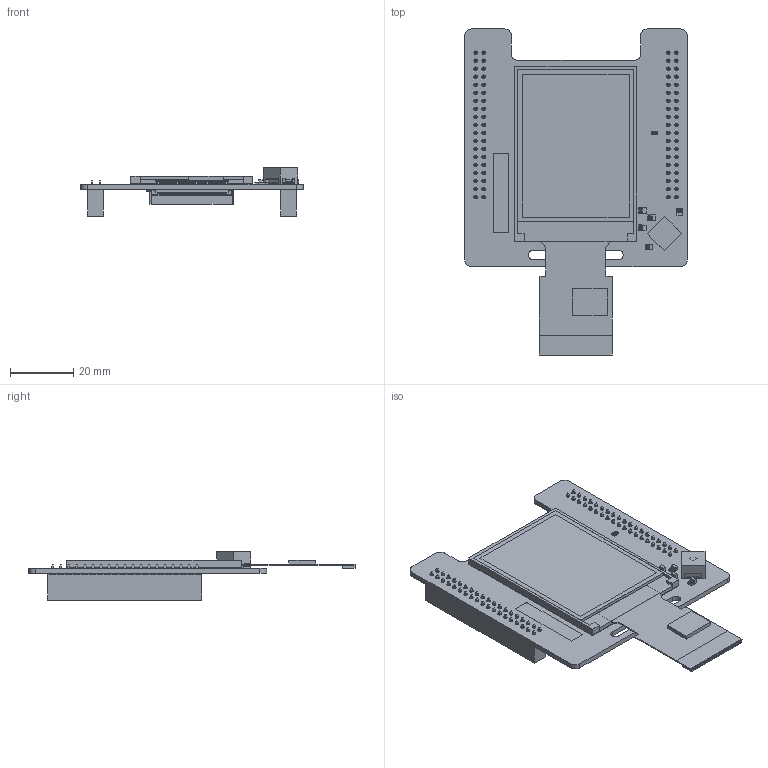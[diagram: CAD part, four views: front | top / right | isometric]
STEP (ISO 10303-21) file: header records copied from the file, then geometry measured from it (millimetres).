
FILE_DESCRIPTION(('Open CASCADE Model'),'2;1');
FILE_NAME('Open CASCADE Shape Model','2021-10-09T15:45:29',('Author'),( 'Open CASCADE'),'Open CASCADE STEP processor 6.8','Open CASCADE 6.8' ,'Unknown');
FILE_SCHEMA(('AUTOMOTIVE_DESIGN { 1 0 10303 214 1 1 1 1 }'));
Length unit declared in the file: millimetre
Products named in the file (92): PCB; Board; Open CASCADE STEP translator 6.8 1.1.1; CN2; SSW-119-01-G-D; _T1SSW-119-01-G-D; _P2SSW-119-01-G-D; 6709232576; Extruded; R12; R0603; 6709237056; R11; R1206; 6709235536; R10; R9; R8; R7; 6709236816; C7; C0603; 6709237936; R6; R5; R4; R3; R2; R1; C6; 6709238256; C5; C4; C3; C2; C1; B1; SWI_XIEJIA_MT-008A_6P; 6701873088; CN3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
Assembly tree (192 placements, depth 4):
  PCB
    Board
      Open CASCADE STEP translator 6.8 1.1.1
    CN2
      SSW-119-01-G-D
        _T1SSW-119-01-G-D
        _P2SSW-119-01-G-D
      6709232576
        Extruded
    R12
      R0603
      6709237056
        Extruded
    R11
      R1206
      6709235536
        Extruded
    R10
      R1206
      6709235536
        Extruded
    R9
      R1206
      6709235536
        Extruded
    R8
      R1206
      6709235536
        Extruded
    R7
      R0603
      6709236816
        Extruded
    C7
      C0603
      6709237936
        Extruded
    R6
      R0603
      6709237056
        Extruded
    R5
      R0603
      6709236816
        Extruded
    R4
      R0603
      6709236816
        Extruded
    R3
      R0603
      6709236816
        Extruded
    R2
      R0603
      6709236816
        Extruded
    R1
      R0603
      6709237056
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Bounding box: 70.36 x 103.17 x 15.31 mm (x, y, z)
Volume: 22384.1 mm3; surface area: 38605.2 mm2
Topology: 177 solids, 177 shells, 5058 faces, 13277 edges, 8682 vertices
Faces by surface type: plane 4010, cylinder 535, bspline 507, cone 6
Full cylindrical faces by diameter (mm): 0.5 x1, 0.8 x1, 1.1 x77
Entity records: 96115 total; most frequent: CARTESIAN_POINT 18320, ORIENTED_EDGE 14970, DIRECTION 13939, EDGE_CURVE 7485, LINE 6561, VECTOR 6561, VERTEX_POINT 4914, AXIS2_PLACEMENT_3D 3689
